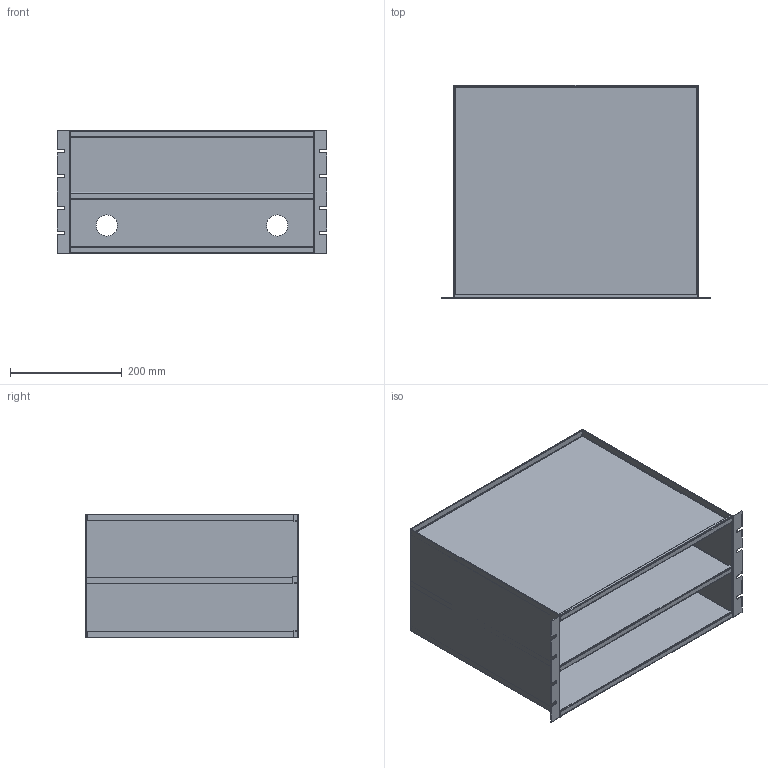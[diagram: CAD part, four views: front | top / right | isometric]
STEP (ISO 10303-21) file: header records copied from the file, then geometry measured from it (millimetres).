
FILE_DESCRIPTION( ( 'Unknown' ), '1' );
FILE_NAME( 'Q:/ACCESSORIES/SHELVES/RAS/WEB DRAWINGS/STEP/RASE1900815.stp', 'Unknown', ( 'Unknown' ), ( 'Unknown' ), 'PSStep 10.1', 'Unknown', ' ' );
FILE_SCHEMA( ( 'AUTOMOTIVE_DESIGN { 1 0 10303 214 1 1 1 1 }' ) );
Length unit declared in the file: millimetre
Products named in the file (3): Assem1; COM41924; COM41923
Bounding box: 482.6 x 381 x 221.46 mm (x, y, z)
Volume: 1338300.1 mm3; surface area: 2209903 mm2
Topology: 5 solids, 5 shells, 226 faces, 612 edges, 396 vertices
Faces by surface type: plane 154, cylinder 72
Full cylindrical faces by diameter (mm): 38.1 x4
Entity records: 3774 total; most frequent: CARTESIAN_POINT 522, DIRECTION 512, ORIENTED_EDGE 512, EDGE_CURVE 256, LINE 196, VECTOR 196, VERTEX_POINT 168, AXIS2_PLACEMENT_3D 158
